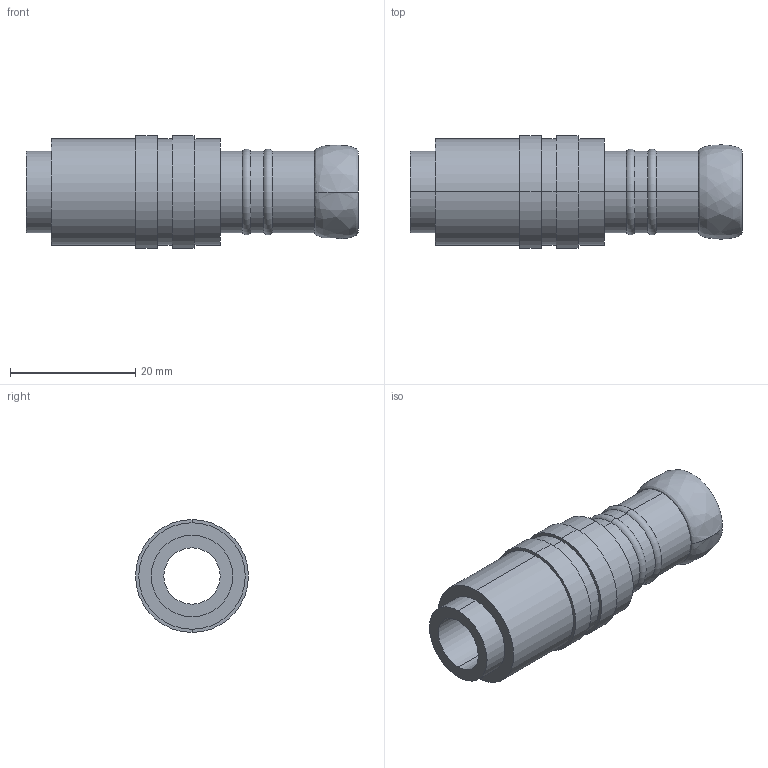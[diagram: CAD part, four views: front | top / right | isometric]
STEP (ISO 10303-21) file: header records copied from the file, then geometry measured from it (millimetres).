
FILE_DESCRIPTION (( 'STEP AP214' ), '1' );
FILE_NAME ('BruYRubio_BR80_09_13.STEP', '2020-06-22T14:00:21', ( '' ), ( '' ), 'SwSTEP 2.0', 'SolidWorks 2018', '' );
FILE_SCHEMA (( 'AUTOMOTIVE_DESIGN' ));
Length unit declared in the file: millimetre
Products named in the file (1): BruYRubio_BR80_09_13
Bounding box: 53 x 18.02 x 18.02 mm (x, y, z)
Volume: 6675.3 mm3; surface area: 4551.8 mm2
Topology: 1 solids, 1 shells, 36 faces, 74 edges, 44 vertices
Faces by surface type: cylinder 20, plane 6, cone 4, torus 4, bspline 2
Entity records: 1018 total; most frequent: CARTESIAN_POINT 191, DIRECTION 190, ORIENTED_EDGE 148, AXIS2_PLACEMENT_3D 83, EDGE_CURVE 74, CIRCLE 48, VERTEX_POINT 44, EDGE_LOOP 42
